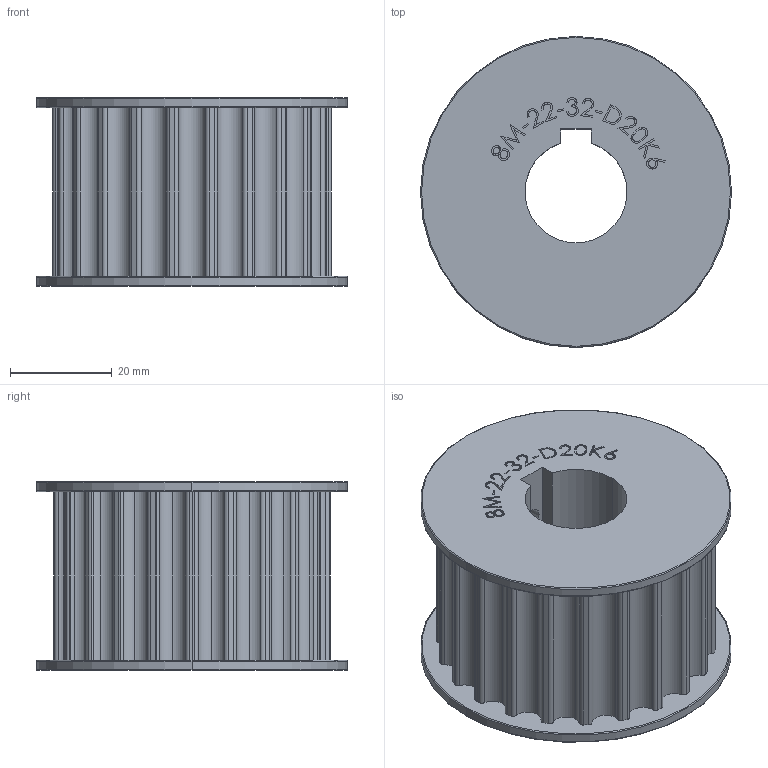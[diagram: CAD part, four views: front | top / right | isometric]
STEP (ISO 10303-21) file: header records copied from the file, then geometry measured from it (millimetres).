
FILE_DESCRIPTION (( 'STEP AP214' ), '1' );
FILE_NAME ('3.2038 HTD-8M-22-32-D20K6.STEP', '2026-02-09T11:25:08', ( '' ), ( '' ), 'SwSTEP 2.0', 'SolidWorks 2025', '' );
FILE_SCHEMA (( 'AUTOMOTIVE_DESIGN' ));
Length unit declared in the file: millimetre
Products named in the file (1): 3.2038 HTD-8M-22-32-D20K6
Bounding box: 61 x 61 x 37 mm (x, y, z)
Volume: 68411.8 mm3; surface area: 17751.4 mm2
Topology: 1 solids, 1 shells, 306 faces, 841 edges, 558 vertices
Faces by surface type: cylinder 120, plane 98, bspline 80, torus 8
Entity records: 14568 total; most frequent: CARTESIAN_POINT 7054, ORIENTED_EDGE 1682, DIRECTION 1383, EDGE_CURVE 841, VERTEX_POINT 558, AXIS2_PLACEMENT_3D 479, VECTOR 425, LINE 425
